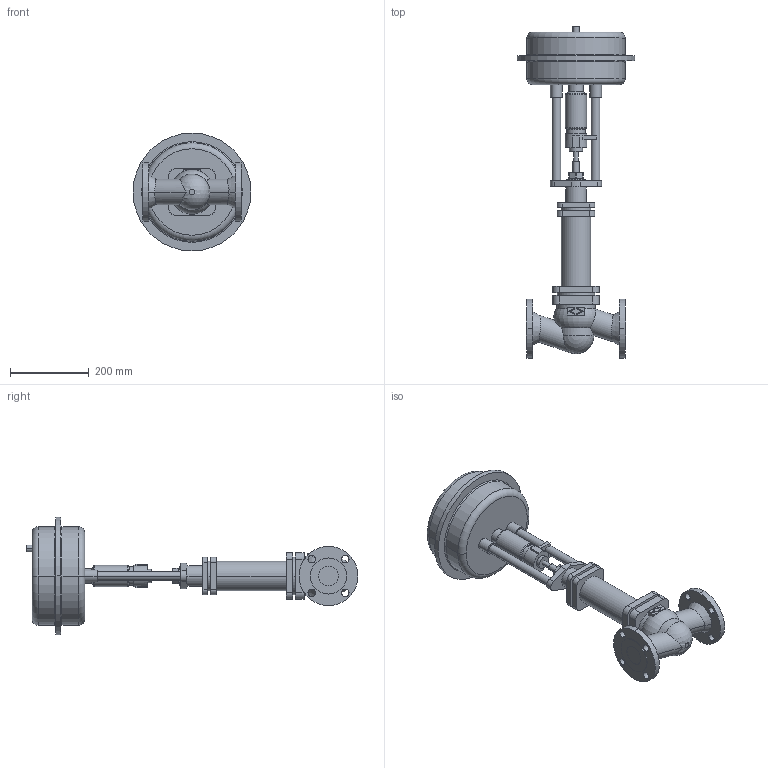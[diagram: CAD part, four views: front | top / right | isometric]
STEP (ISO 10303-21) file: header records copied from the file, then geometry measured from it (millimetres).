
FILE_DESCRIPTION(('Creo Elements/Direct Modeling STEP Export'),'2;1');
FILE_NAME('c000006493.stp','2017-01-21T12:19:48',(''),(''),'Creo Elements/Direct Modeling STEP processor for AP214 (Solid Model)','Creo Elements/Direct Modeling 18.1C 24-Feb-2013 (C) Parametric Technology GmbH','');
FILE_SCHEMA(('AUTOMOTIVE_DESIGN { 1 0 10303 214 1 1 1 1 }'));
Length unit declared in the file: millimetre
Products named in the file (3): 1; 2; c000006493.stp
Assembly tree (2 placements, depth 2):
  c000006493.stp
    2
    1
Bounding box: 300 x 844.5 x 300 mm (x, y, z)
Volume: 11032469.8 mm3; surface area: 595550.4 mm2
Topology: 2 solids, 2 shells, 225 faces, 546 edges, 356 vertices
Faces by surface type: cylinder 103, plane 94, torus 18, cone 9, sphere 1
Entity records: 6735 total; most frequent: CARTESIAN_POINT 1529, ORIENTED_EDGE 1088, DIRECTION 1048, EDGE_CURVE 544, AXIS2_PLACEMENT_3D 392, VERTEX_POINT 356, EDGE_LOOP 274, VECTOR 264
